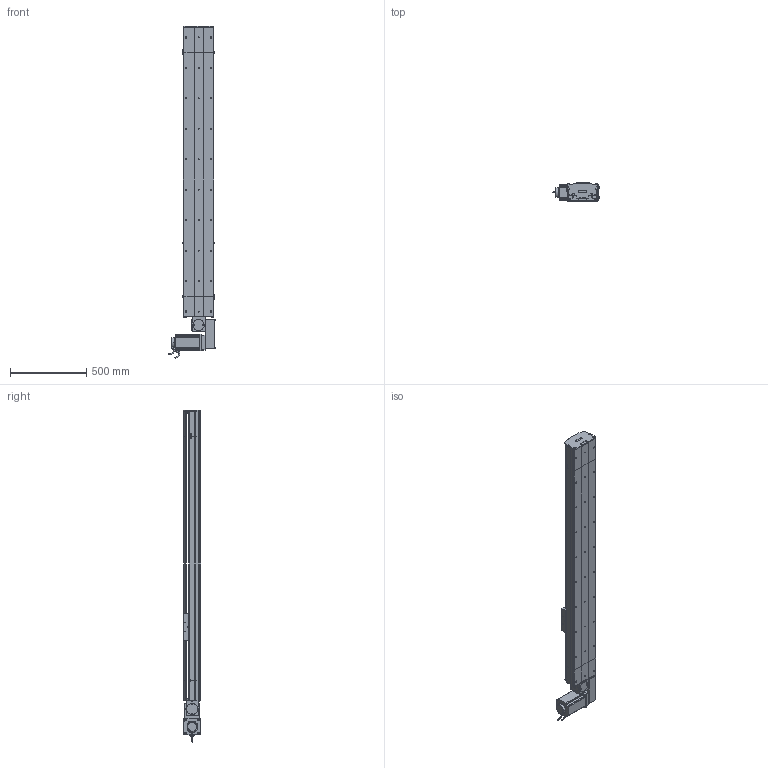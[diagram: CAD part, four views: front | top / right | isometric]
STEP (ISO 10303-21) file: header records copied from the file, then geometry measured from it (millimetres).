
FILE_DESCRIPTION (( 'STEP AP214' ), '1' );
FILE_NAME ('D20 TBH LH S1600.STEP', '2010-07-01T07:30:51', ( 'Conseil Régional Haute-Normandie' ), ( 'Conseil Régional Haute-Normandie' ), 'SwSTEP 2.0', 'SolidWorks 2010', '' );
FILE_SCHEMA (( 'AUTOMOTIVE_DESIGN' ));
Length unit declared in the file: millimetre
Products named in the file (40): corpl head D20_Default; Renvoi LH D20_Default; plaque de  bout head D20B LH_Default; poulie head D20_Default; couvercle head D20_Default; rail head D20; Plaque racord D20LH_Default; cache D20_Default; cache arbre D20_Default; couroie_Default; vis M5 L5_Default; vis M5 L70_Default; Conecteur2_Default; codeur 110BLDC170A-630x; vis M5 L25_Default; clavette; Conecteur_Default; corps 110BLDC170A-630x; avant 110BLDC170A-630x; Moteur motionking 110BLDC170A-640x; corpl tail D20_Default; tail D20_Default; vis M8 L12_Default; vis M5 L12_Default; tete d''axe poulie D20B; couvercle tail D20_Default; Couroie tail D20_Default; plaque de  bout tail D20_Default; poulie tail D20_Default; rail tail D20; vis M5 L8 90°_Default; Course B L1600_Default; guide D20B; Chariot D20B; head LH_Default; rail + couroie  D20 S1500; couvercle D20 S1600_Default; corp D20 S1600_Default; chariot D20B_Default; D20 TBH LH S1600
Assembly tree (71 placements, depth 4):
  D20 TBH LH S1600
    Course B L1600_Default
      couvercle D20 S1600_Default
      corp D20 S1600_Default
      rail + couroie  D20 S1500
    head LH_Default
      vis M5 L5_Default  x4
      vis M5 L25_Default  x2
      cache arbre D20_Default
      vis M5 L12_Default  x10
      poulie head D20_Default
      rail head D20
      vis M5 L70_Default  x4
      cache D20_Default  x2
      couvercle head D20_Default
      couroie_Default
      vis M8 L12_Default  x4
      Plaque racord D20LH_Default
      corpl head D20_Default
      Moteur motionking 110BLDC170A-640x
        Conecteur2_Default
        codeur 110BLDC170A-630x
        corps 110BLDC170A-630x
        Conecteur_Default
        clavette
        avant 110BLDC170A-630x
      Renvoi LH D20_Default
      plaque de  bout head D20B LH_Default
    tail D20_Default
      poulie tail D20_Default
      vis M5 L12_Default  x4
      couvercle tail D20_Default
      vis M5 L8 90°_Default  x2
      Couroie tail D20_Default
      vis M5 L25_Default  x2
      plaque de  bout tail D20_Default
      corpl tail D20_Default
      rail tail D20
      tete d''axe poulie D20B
    chariot D20B_Default
      vis M5 L12_Default  x4
      guide D20B  x2
      Chariot D20B
Bounding box: 304.2 x 115.7 x 2180 mm (x, y, z)
Volume: 17494744.6 mm3; surface area: 4135255.8 mm2
Topology: 95 solids, 95 shells, 2740 faces, 6906 edges, 4455 vertices
Faces by surface type: plane 1619, cylinder 797, bspline 136, cone 99, torus 89
Entity records: 86025 total; most frequent: CARTESIAN_POINT 27501, ORIENTED_EDGE 10468, DIRECTION 9905, EDGE_CURVE 5234, VERTEX_POINT 3441, LINE 3415, VECTOR 3415, AXIS2_PLACEMENT_3D 3245
